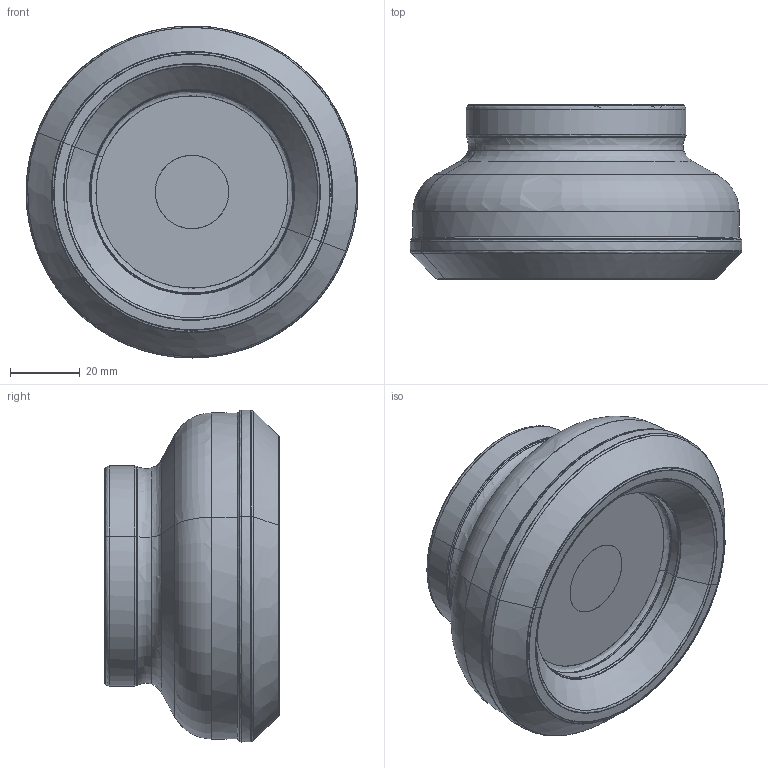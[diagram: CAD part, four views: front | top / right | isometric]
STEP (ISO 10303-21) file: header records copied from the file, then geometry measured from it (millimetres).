
FILE_DESCRIPTION(('OPEN MIND Model'),'2;1');
FILE_NAME('OPEN MIND Shape Model','2018-12-13T09:27:06',('Author'),( 'hyperCAD-S '),'hyperCAD-S STEP processor 6.6','hyperCAD-S 1.0' ,'Unknown');
FILE_SCHEMA(('AUTOMOTIVE_DESIGN { 1 2 10303 214 -1 1 5 4 }'));
Length unit declared in the file: millimetre
Products named in the file (69): Product 1; Product 1.1; Product 1.2; Product 1.3; Product 1.4; Product 1.5; Product 1.6; Product 1.7; Product 1.8; Product 1.9; Product 1.10; Product 1.11; Product 1.12; Product 1.13; Product 1.14; Product 1.15; Product 1.16; Product 1.17; Product 1.18; Product 1.19; Product 1.20; Product 1.21; Product 1.22; Product 1.23; Product 1.24; Product 1.25; Product 1.26; Product 1.27; Product 1.28; Product 1.29; Product 1.30; Product 1.31; Product 1.32; Product 1.33; Product 1.34; Product 1.35; Product 1.36; Product 1.37; Product 1.38; Product 1.39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
Assembly tree (68 placements, depth 2):
  Product 1
    Product 1.1
    Product 1.2
    Product 1.3
    Product 1.4
    Product 1.5
    Product 1.6
    Product 1.7
    Product 1.8
    Product 1.9
    Product 1.10
    Product 1.11
    Product 1.12
    Product 1.13
    Product 1.14
    Product 1.15
    Product 1.16
    Product 1.17
    Product 1.18
    Product 1.19
    Product 1.20
    Product 1.21
    Product 1.22
    Product 1.23
    Product 1.24
    Product 1.25
    Product 1.26
    Product 1.27
    Product 1.28
    Product 1.29
    Product 1.30
    Product 1.31
    Product 1.32
    Product 1.33
    Product 1.34
    Product 1.35
    Product 1.36
    Product 1.37
    Product 1.38
    Product 1.39
    Product 1.40
    Product 1.41
    Product 1.42
    Product 1.43
    Product 1.44
    Product 1.45
    Product 1.46
    Product 1.47
    Product 1.48
    Product 1.49
    Product 1.50
    Product 1.51
    Product 1.52
    Product 1.53
    Product 1.54
    Product 1.55
    Product 1.56
    Product 1.57
    Product 1.58
    Product 1.59
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Bounding box: 95.01 x 50.03 x 95.01 mm (x, y, z)
Surface area: 24810.8 mm2 (no closed solid volume)
Topology: 0 solids, 68 shells, 68 faces, 270 edges, 270 vertices
Faces by surface type: revolution 32, bspline 28, plane 4, cylinder 4
Entity records: 33458 total; most frequent: CARTESIAN_POINT 29479, B_SPLINE_CURVE_WITH_KNOTS 544, ORIENTED_EDGE 270, EDGE_CURVE 270, VERTEX_POINT 270, SURFACE_CURVE 270, PCURVE 270, DEFINITIONAL_REPRESENTATION 270
